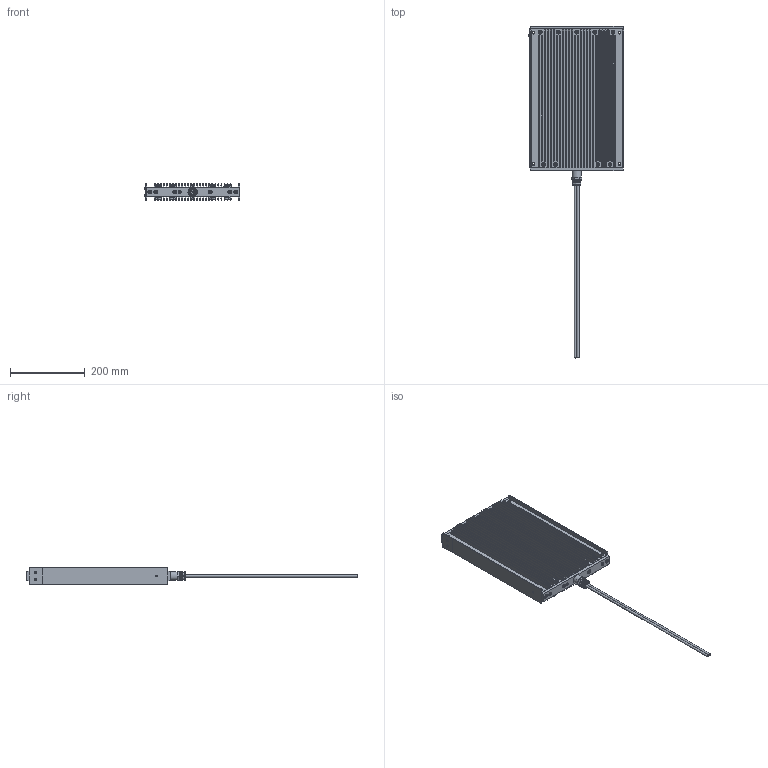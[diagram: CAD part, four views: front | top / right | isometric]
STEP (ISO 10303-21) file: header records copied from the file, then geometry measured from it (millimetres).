
FILE_DESCRIPTION(/* description */ (''),/* implementation_level */ '2;1');
FILE_NAME(/* name */ 'C:\_Vault\Dati\CATALOGO\RCH\INVENTOR\Disegni catalogo\RFH 2000 1PG.stp',/* time_stamp */ '2014-03-25T18:25:06+01:00',/* author */ ('stefano'),/* organization */ (''),/* preprocessor_version */ 'ST-DEVELOPER v15.2',/* originating_system */ 'Autodesk Inventor 2014',/* authorisation */ '');
FILE_SCHEMA (('AUTOMOTIVE_DESIGN { 1 0 10303 214 3 1 1 }'));
Length unit declared in the file: millimetre
Products named in the file (1): RFH 2000 1PG
Bounding box: 254.37 x 886 x 45 mm (x, y, z)
Volume: 26076.7 mm3; surface area: 833055.2 mm2
Topology: 12 solids, 14 shells, 1302 faces, 3283 edges, 2160 vertices
Faces by surface type: plane 617, cylinder 453, cone 196, torus 34, sphere 2
Full cylindrical faces by diameter (mm): 2.5 x2, 2.9 x2, 3 x2, 4.134 x8, 4.25 x1, 4.917 x1, 5 x30, 5.3 x22, 5.5 x23, 5.6 x12, 6 x2, 7 x4, 7.25 x1, 8.5 x9, 9.5 x12, 10 x18, 10.5 x12, 13 x1, 13.376 x1, 14.4 x1, 16.4 x1, 19 x1, 19.3 x1, 20.4 x3, 22 x2, 24 x1
Entity records: 39443 total; most frequent: CARTESIAN_POINT 8985, DIRECTION 5994, ORIENTED_EDGE 5832, EDGE_CURVE 2914, AXIS2_PLACEMENT_3D 2377, VERTEX_POINT 2032, EDGE_LOOP 1770, STYLED_ITEM 1303
